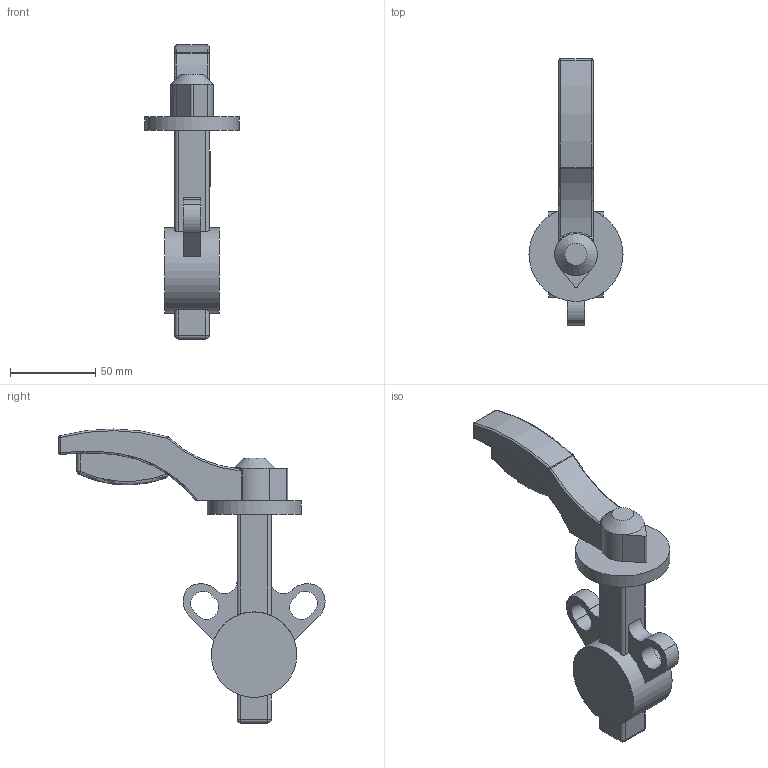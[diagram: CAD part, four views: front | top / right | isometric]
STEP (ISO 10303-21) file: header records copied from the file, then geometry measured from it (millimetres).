
FILE_DESCRIPTION(/* description */ (''),/* implementation_level */ '2;1');
FILE_NAME(/* name */ 'DN25.stp',/* time_stamp */ '2026-06-17T14:32:10+08:00',/* author */ (''),/* organization */ (''),/* preprocessor_version */ 'ST-DEVELOPER v16.7',/* originating_system */ 'SIEMENS PLM Software NX 12.0',/* authorisation */ '');
FILE_SCHEMA (('AUTOMOTIVE_DESIGN { 1 0 10303 214 3 1 1 1 }'));
Length unit declared in the file: millimetre
Products named in the file (1): DN25prt
Bounding box: 55 x 155.74 x 172.04 mm (x, y, z)
Volume: 179022.9 mm3; surface area: 37248.5 mm2
Topology: 3 solids, 3 shells, 112 faces, 272 edges, 162 vertices
Faces by surface type: cylinder 47, plane 39, sphere 12, torus 10, bspline 3, cone 1
Full cylindrical faces by diameter (mm): 50 x1, 55 x1
Entity records: 3548 total; most frequent: CARTESIAN_POINT 965, DIRECTION 553, ORIENTED_EDGE 514, EDGE_CURVE 257, AXIS2_PLACEMENT_3D 220, VERTEX_POINT 157, EDGE_LOOP 122, LINE 113
